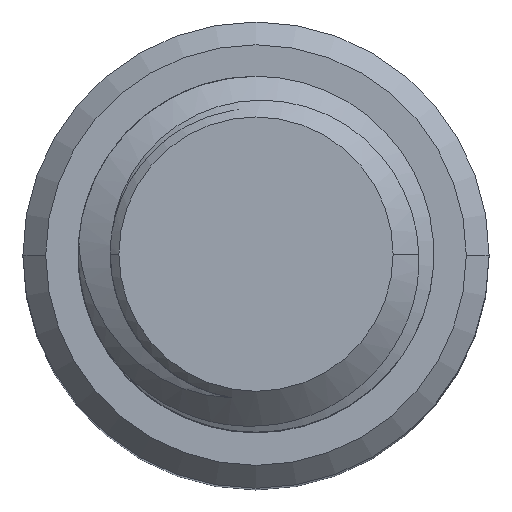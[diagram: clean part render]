
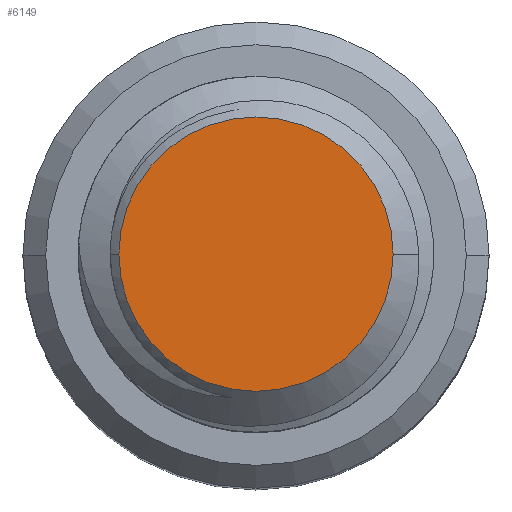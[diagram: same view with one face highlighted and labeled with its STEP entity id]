
A CAD part, top view. The second image highlights one B-rep face of the part: STEP entity #6149.
In plain terms, the highlighted planar face has unit normal (0, 0, 1).
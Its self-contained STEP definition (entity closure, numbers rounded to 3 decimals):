
#355 = DIRECTION ( 'NONE',  ( 0., 0., 1. ) ) ;
#400 = EDGE_CURVE ( 'NONE', #2954, #4236, #4387, .T. ) ;
#1112 = AXIS2_PLACEMENT_3D ( 'NONE', #3769, #2746, #2869 ) ;
#1135 = ORIENTED_EDGE ( 'NONE', *, *, #400, .T. ) ;
#1306 = AXIS2_PLACEMENT_3D ( 'NONE', #6203, #355, #5144 ) ;
#1825 = CARTESIAN_POINT ( 'NONE',  ( 3., 0., 64.2 ) ) ;
#2361 = DIRECTION ( 'NONE',  ( 0., 0., 1. ) ) ;
#2432 = DIRECTION ( 'NONE',  ( 0., -1., 0. ) ) ;
#2433 = EDGE_LOOP ( 'NONE', ( #5429, #1135 ) ) ;
#2746 = DIRECTION ( 'NONE',  ( 0., 0., 1. ) ) ;
#2869 = DIRECTION ( 'NONE',  ( 1., 0., 0. ) ) ;
#2954 = VERTEX_POINT ( 'NONE', #1825 ) ;
#3769 = CARTESIAN_POINT ( 'NONE',  ( 0., 0., 64.2 ) ) ;
#4236 = VERTEX_POINT ( 'NONE', #4720 ) ;
#4267 = FACE_OUTER_BOUND ( 'NONE', #2433, .T. ) ;
#4387 = CIRCLE ( 'NONE', #1112, 3. ) ;
#4720 = CARTESIAN_POINT ( 'NONE',  ( -3., 0., 64.2 ) ) ;
#4996 = CIRCLE ( 'NONE', #1306, 3. ) ;
#5144 = DIRECTION ( 'NONE',  ( 1., 0., 0. ) ) ;
#5277 = EDGE_CURVE ( 'NONE', #4236, #2954, #4996, .T. ) ;
#5352 = CARTESIAN_POINT ( 'NONE',  ( 0., 0., 64.2 ) ) ;
#5429 = ORIENTED_EDGE ( 'NONE', *, *, #5277, .T. ) ;
#6149 = ADVANCED_FACE ( 'NONE', ( #4267 ), #6228, .T. ) ;
#6203 = CARTESIAN_POINT ( 'NONE',  ( 0., 0., 64.2 ) ) ;
#6228 = PLANE ( 'NONE',  #6314 ) ;
#6314 = AXIS2_PLACEMENT_3D ( 'NONE', #5352, #2361, #2432 ) ;
